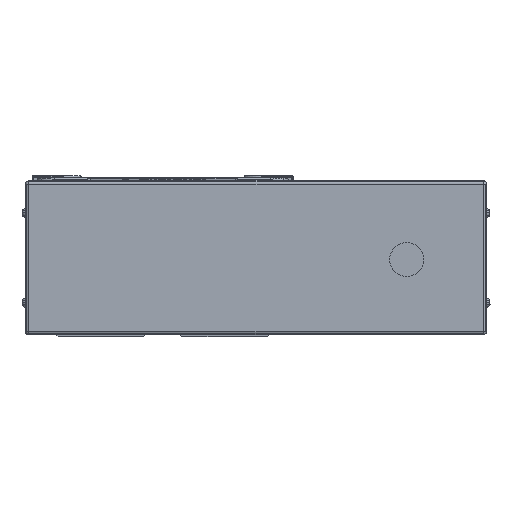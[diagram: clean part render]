
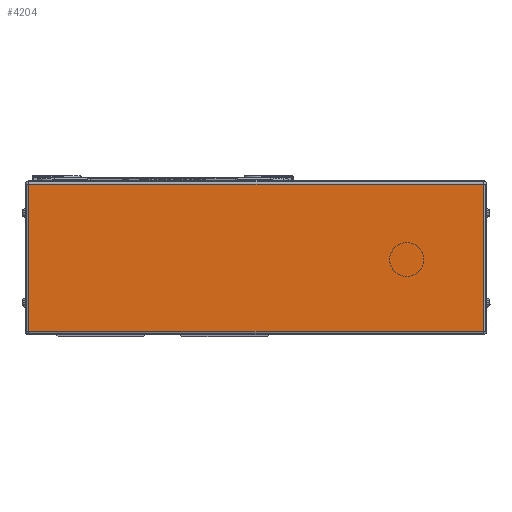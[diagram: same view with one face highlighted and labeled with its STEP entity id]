
A CAD part, left-side view. The second image highlights one B-rep face of the part: STEP entity #4204.
In plain terms, the highlighted planar face has unit normal (-1, 0, 0).
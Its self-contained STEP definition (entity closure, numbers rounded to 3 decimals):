
#4204=ADVANCED_FACE('',(#10125),#10126,.T.);
#10125=FACE_OUTER_BOUND('',#18226,.T.);
#10126=PLANE('',#18227);
#18226=EDGE_LOOP('',(#31188,#31189,#31190,#31191));
#18227=AXIS2_PLACEMENT_3D('',#31192,#31193,#31194);
#31188=ORIENTED_EDGE('',*,*,#50435,.F.);
#31189=ORIENTED_EDGE('',*,*,#50436,.F.);
#31190=ORIENTED_EDGE('',*,*,#50437,.F.);
#31191=ORIENTED_EDGE('',*,*,#49165,.F.);
#31192=CARTESIAN_POINT('',(-45.,-180.5,0.));
#31193=DIRECTION('',(-1.0,0.,0.));
#31194=DIRECTION('',(0.,0.,1.0));
#49165=EDGE_CURVE('',#59588,#59590,#59591,.T.);
#50435=EDGE_CURVE('',#57544,#59588,#61606,.T.);
#50436=EDGE_CURVE('',#61607,#57544,#61608,.T.);
#50437=EDGE_CURVE('',#59590,#61607,#61609,.T.);
#57544=VERTEX_POINT('',#71003);
#59588=VERTEX_POINT('',#73753);
#59590=VERTEX_POINT('',#73755);
#59591=LINE('',#73756,#73757);
#61606=LINE('',#76710,#76711);
#61607=VERTEX_POINT('',#76712);
#61608=LINE('',#76713,#76714);
#61609=LINE('',#76715,#76716);
#71003=CARTESIAN_POINT('',(-45.,-178.5,41.));
#73753=CARTESIAN_POINT('',(-45.,-178.5,-41.));
#73755=CARTESIAN_POINT('',(-45.,74.5,-41.));
#73756=CARTESIAN_POINT('',(-45.,-180.5,-41.));
#73757=VECTOR('',#90230,10.0);
#76710=CARTESIAN_POINT('',(-45.,-178.5,0.));
#76711=VECTOR('',#92026,10.0);
#76712=CARTESIAN_POINT('',(-45.,74.5,41.));
#76713=CARTESIAN_POINT('',(-45.,-180.5,41.));
#76714=VECTOR('',#92027,10.0);
#76715=CARTESIAN_POINT('',(-45.,74.5,0.));
#76716=VECTOR('',#92028,10.0);
#90230=DIRECTION('',(0.,1.0,0.));
#92026=DIRECTION('',(0.,0.,-1.0));
#92027=DIRECTION('',(0.,-1.0,0.));
#92028=DIRECTION('',(0.,0.,1.0));
